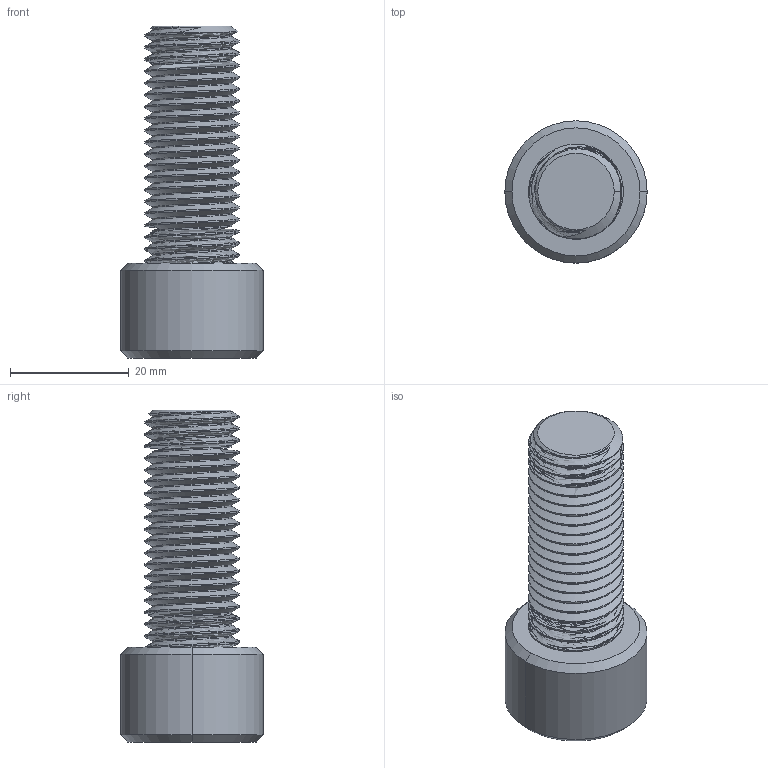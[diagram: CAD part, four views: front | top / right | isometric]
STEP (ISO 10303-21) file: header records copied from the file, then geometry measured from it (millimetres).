
FILE_DESCRIPTION (( 'STEP AP203' ), '1' );
FILE_NAME ('SOCKET HEAD CAP SCREW M16 x 2 mm Thread 40 mm Long.STEP', '2017-03-06T13:51:59', ( 'itdept' ), ( '' ), 'SwSTEP 2.0', 'SolidWorks 2016', '' );
FILE_SCHEMA (( 'CONFIG_CONTROL_DESIGN' ));
Length unit declared in the file: millimetre
Products named in the file (1): SOCKET HEAD CAP SCREW M16 x 2 mm Thread 40 mm Long
Bounding box: 24 x 24 x 56 mm (x, y, z)
Volume: 12135.2 mm3; surface area: 5681.8 mm2
Topology: 1 solids, 1 shells, 108 faces, 296 edges, 192 vertices
Faces by surface type: cylinder 83, cone 13, plane 10, bspline 2
Entity records: 5494 total; most frequent: CARTESIAN_POINT 3181, ORIENTED_EDGE 592, DIRECTION 356, EDGE_CURVE 296, VERTEX_POINT 192, AXIS2_PLACEMENT_3D 128, EDGE_LOOP 110, ADVANCED_FACE 108
